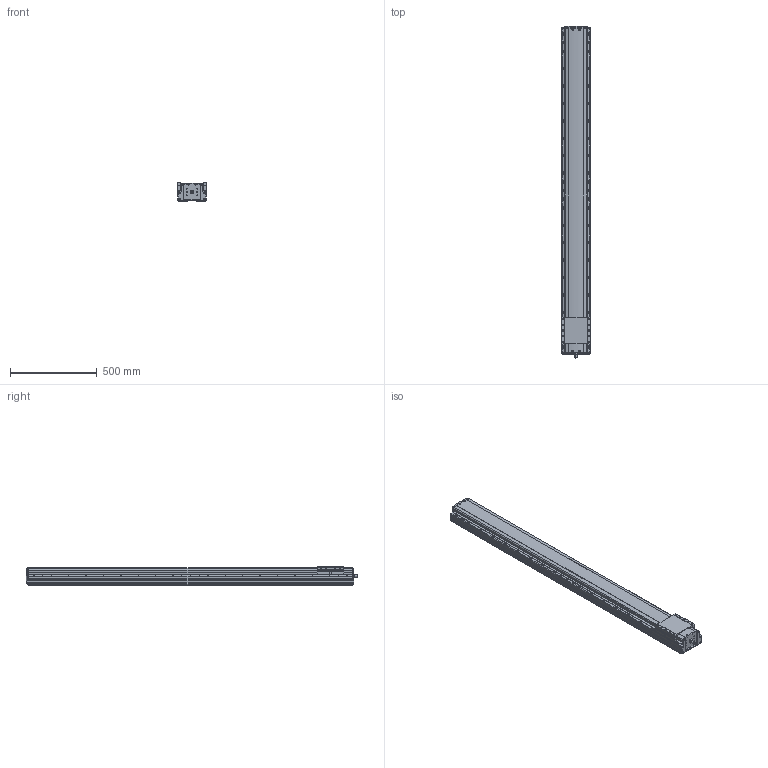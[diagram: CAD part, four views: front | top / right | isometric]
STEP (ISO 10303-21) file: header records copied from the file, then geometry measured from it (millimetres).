
FILE_DESCRIPTION(('STEP AP214'),'1');
FILE_NAME('Z:/Web/3D/PSA165/STP/PSA165-1600 (3D)/PSA165ㅁㅁ-1600.stp','2014-06-24T11:00:05',(' '),(' '),'Spatial InterOp 3D',' ',' ');
FILE_SCHEMA(('automotive_design'));
Length unit declared in the file: millimetre
Products named in the file (18): 스크루 : Round - M4.0 x 12.0; RRCV-PA160; BASE; 스크루 : Round - M4.0 x 10.0; RN15; Screw 20; SLIDE; FRCV
Bounding box: 165 x 1908.8 x 104 mm (x, y, z)
Volume: 25633219.4 mm3; surface area: 1476821.5 mm2
Topology: 18 solids, 18 shells, 2159 faces, 5889 edges, 3741 vertices
Faces by surface type: plane 1088, cylinder 781, cone 217, sphere 32, bspline 25, torus 16
Entity records: 88916 total; most frequent: CARTESIAN_POINT 16505, DIRECTION 11517, ORIENTED_EDGE 11430, EDGE_CURVE 5715, AXIS2_PLACEMENT_3D 3927, VERTEX_POINT 3741, LINE 3663, VECTOR 3663
